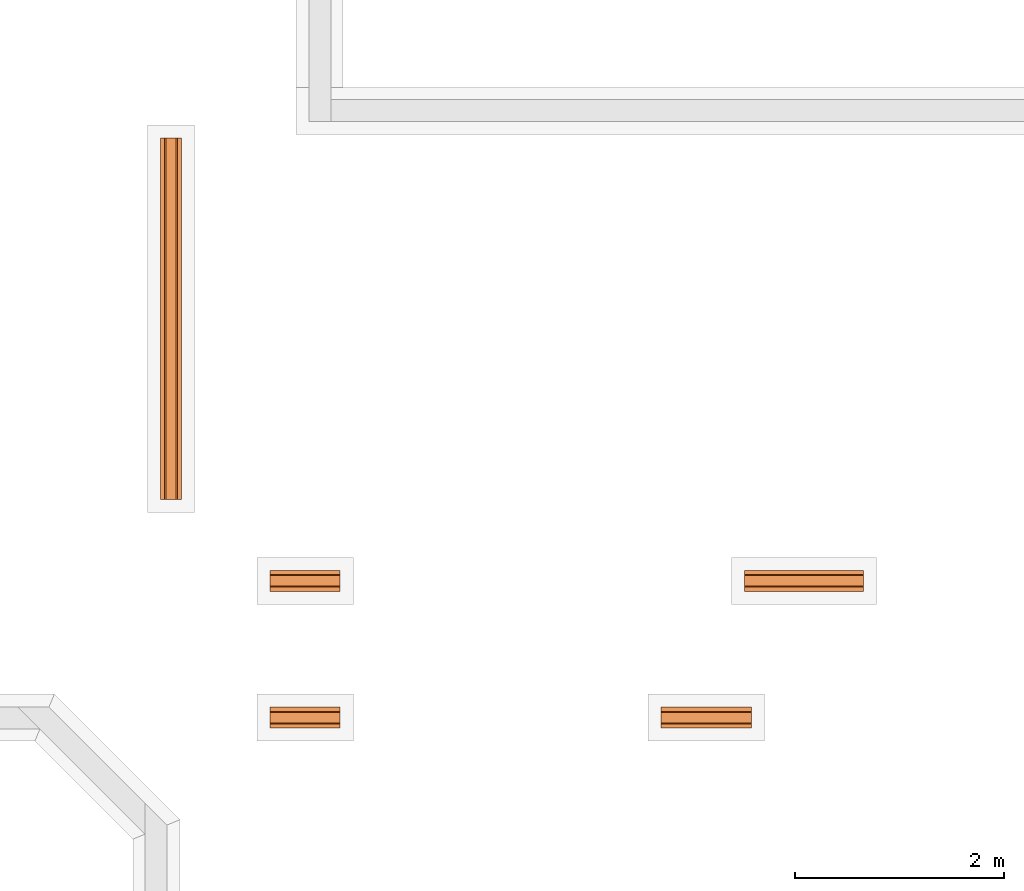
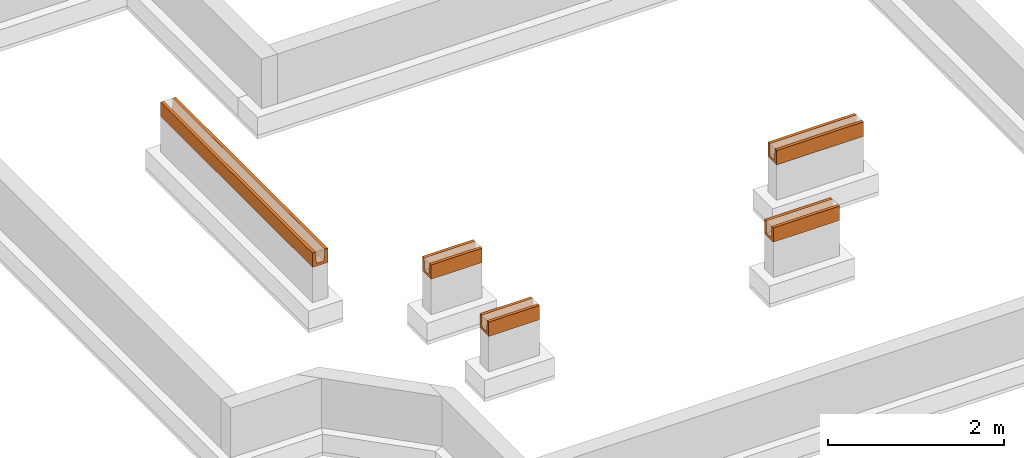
# One storey, part 2 of 2: 5 proxies.
"""IFC2X3 building model written with IfcOpenShell, lengths in centimetres."""

from ifc_helpers import new_model, entity, si_unit, converted_unit, derived_unit, direction, frame, origin, place, context, subcontext, project, spatial, polyline, outline, extrude, type_object, element, save


model = new_model("IFC2X3")

# Units and contexts
model_context = context("Model", 3, precision=0.001, world=origin(), true_north=direction((6.123031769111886e-17, 1.0)))
body_context = subcontext(model_context, "Body", "Model", "MODEL_VIEW")
ifc_project = project(units=[si_unit("LENGTHUNIT", "METRE", prefix="CENTI"), si_unit("AREAUNIT", "SQUARE_METRE"), si_unit("VOLUMEUNIT", "CUBIC_METRE"), converted_unit("PLANEANGLEUNIT", "DEGREE", entity("IfcRatioMeasure", 0.017453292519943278), si_unit("PLANEANGLEUNIT", "RADIAN"), dimensions=[0, 0, 0, 0, 0, 0, 0]), si_unit("MASSUNIT", "GRAM", prefix="KILO"), derived_unit("MASSDENSITYUNIT", [(si_unit("MASSUNIT", "GRAM", prefix="KILO"), 1), (si_unit("LENGTHUNIT", "METRE"), -3)]), derived_unit("MOMENTOFINERTIAUNIT", [(si_unit("LENGTHUNIT", "METRE"), 4)]), si_unit("TIMEUNIT", "SECOND"), si_unit("FREQUENCYUNIT", "HERTZ"), si_unit("THERMODYNAMICTEMPERATUREUNIT", "DEGREE_CELSIUS"), derived_unit("THERMALTRANSMITTANCEUNIT", [(si_unit("MASSUNIT", "GRAM", prefix="KILO"), 1), (si_unit("THERMODYNAMICTEMPERATUREUNIT", "KELVIN"), -1), (si_unit("TIMEUNIT", "SECOND"), -3)]), derived_unit("VOLUMETRICFLOWRATEUNIT", [(si_unit("LENGTHUNIT", "METRE"), 3), (si_unit("TIMEUNIT", "SECOND"), -1)]), derived_unit("MASSFLOWRATEUNIT", [(si_unit("MASSUNIT", "GRAM", prefix="KILO"), 1), (si_unit("TIMEUNIT", "SECOND"), -1)]), derived_unit("ROTATIONALFREQUENCYUNIT", [(si_unit("TIMEUNIT", "SECOND"), -1)]), si_unit("ELECTRICCURRENTUNIT", "AMPERE"), si_unit("ELECTRICVOLTAGEUNIT", "VOLT"), si_unit("POWERUNIT", "WATT"), si_unit("FORCEUNIT", "NEWTON", prefix="KILO"), si_unit("ILLUMINANCEUNIT", "LUX"), si_unit("LUMINOUSFLUXUNIT", "LUMEN"), si_unit("LUMINOUSINTENSITYUNIT", "CANDELA"), derived_unit("USERDEFINED", [(si_unit("MASSUNIT", "GRAM", prefix="KILO"), -1), (si_unit("LENGTHUNIT", "METRE"), -2), (si_unit("TIMEUNIT", "SECOND"), 3), (si_unit("LUMINOUSFLUXUNIT", "LUMEN"), 1)]), derived_unit("SOUNDPOWERUNIT", [(si_unit("MASSUNIT", "GRAM", prefix="KILO"), 1), (si_unit("LENGTHUNIT", "METRE"), 2), (si_unit("TIMEUNIT", "SECOND"), -3)]), derived_unit("SOUNDPRESSUREUNIT", [(si_unit("MASSUNIT", "GRAM", prefix="KILO"), 1), (si_unit("LENGTHUNIT", "METRE"), -1), (si_unit("TIMEUNIT", "SECOND"), -2)]), derived_unit("LINEARVELOCITYUNIT", [(si_unit("LENGTHUNIT", "METRE"), 1), (si_unit("TIMEUNIT", "SECOND"), -1)]), si_unit("PRESSUREUNIT", "PASCAL"), derived_unit("USERDEFINED", [(si_unit("LENGTHUNIT", "METRE"), -2), (si_unit("MASSUNIT", "GRAM", prefix="KILO"), 1), (si_unit("TIMEUNIT", "SECOND"), -2)]), derived_unit("LINEARFORCEUNIT", [(si_unit("MASSUNIT", "GRAM", prefix="KILO"), 1), (si_unit("LENGTHUNIT", "METRE"), 1), (si_unit("TIMEUNIT", "SECOND"), -2), (si_unit("LENGTHUNIT", "METRE"), -1)]), derived_unit("PLANARFORCEUNIT", [(si_unit("MASSUNIT", "GRAM", prefix="KILO"), 1), (si_unit("LENGTHUNIT", "METRE"), 1), (si_unit("TIMEUNIT", "SECOND"), -2), (si_unit("LENGTHUNIT", "METRE"), -2)])], contexts=[model_context])

# Site, building, storey
site_placement = place(None, frame((1412.1772603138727, -701.9923171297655, 0.0)))
site = spatial("IfcSite", under=ifc_project, at=site_placement, Name="Default", CompositionType="ELEMENT")
building_placement = place(site_placement, origin())
building = spatial("IfcBuilding", under=site, at=building_placement, CompositionType="ELEMENT")
storey_placement = place(building_placement, frame((0.0, 0.0, -98.0)))
storey = spatial("IfcBuildingStorey", under=building, at=storey_placement, Name="0_Fondation", CompositionType="ELEMENT", Elevation=-98.0)

# Proxies
building_element_proxy_type_1 = type_object("IfcBuildingElementProxyType", Name="306233", PredefinedType="NOTDEFINED")
proxy_1_placement = place(storey_placement, origin())
element("IfcBuildingElementProxy", 1, at=proxy_1_placement, inside=storey, type_object=building_element_proxy_type_1, Name="306233", context=body_context, shape_type="SweptSolid", body=[
    extrude(outline(polyline([(-11.0, -10.0), (9.0, -10.0), (9.0, -6.0), (-7.0, -5.0), (-7.0, 5.0), (9.0, 6.0), (9.0, 10.0), (-11.0, 10.0), (-11.0, -10.0)])), frame((-995.1772603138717, 261.99231712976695, 60.0), z_axis=(1.0, 0.0, 0.0), x_axis=(0.0, 0.0, 1.0)), (0.0, 0.0, 1.0), 114.0000000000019),
])
building_element_proxy_type_2 = type_object("IfcBuildingElementProxyType", Name="306311", PredefinedType="NOTDEFINED")
proxy_2_placement = place(storey_placement, origin())
element("IfcBuildingElementProxy", 2, at=proxy_2_placement, inside=storey, type_object=building_element_proxy_type_2, Name="306311", context=body_context, shape_type="SweptSolid", body=[
    extrude(outline(polyline([(-11.0, -10.0), (9.0, -10.0), (9.0, -6.0), (-7.0, -5.0), (-7.0, 5.0), (9.0, 6.0), (9.0, 10.0), (-11.0, 10.0), (-11.0, -10.0)])), frame((-1075.1772603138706, 130.99231712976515, 60.0), z_axis=(1.0, 0.0, 0.0), x_axis=(0.0, 0.0, 1.0)), (0.0, 0.0, 1.0), 86.99999999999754),
])
building_element_proxy_type_3 = type_object("IfcBuildingElementProxyType", Name="306359", PredefinedType="NOTDEFINED")
proxy_3_placement = place(storey_placement, origin())
element("IfcBuildingElementProxy", 3, at=proxy_3_placement, inside=storey, type_object=building_element_proxy_type_3, Name="306359", context=body_context, shape_type="SweptSolid", body=[
    extrude(outline(polyline([(-11.0, -10.0), (9.0, -10.0), (9.0, -6.0), (-7.0, -5.0), (-7.0, 5.0), (9.0, 6.0), (9.0, 10.0), (-11.0, 10.0), (-11.0, -10.0)])), frame((-1449.1772603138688, 130.99231712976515, 60.0), z_axis=(1.0, 0.0, 0.0), x_axis=(0.0, 0.0, 1.0)), (0.0, 0.0, 1.0), 66.99999999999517),
])
building_element_proxy_type_4 = type_object("IfcBuildingElementProxyType", Name="306388", PredefinedType="NOTDEFINED")
proxy_4_placement = place(storey_placement, origin())
element("IfcBuildingElementProxy", 4, at=proxy_4_placement, inside=storey, type_object=building_element_proxy_type_4, Name="306388", context=body_context, shape_type="SweptSolid", body=[
    extrude(outline(polyline([(-11.0, -10.0), (9.0, -10.0), (9.0, -6.0), (-7.0, -5.0), (-7.0, 5.0), (9.0, 6.0), (9.0, 10.0), (-11.0, 10.0), (-11.0, -10.0)])), frame((-1449.1772603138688, 261.9923171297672, 60.0), z_axis=(1.0, 0.0, 0.0), x_axis=(0.0, 0.0, 1.0)), (0.0, 0.0, 1.0), 66.99999999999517),
])
building_element_proxy_type_5 = type_object("IfcBuildingElementProxyType", Name="306447", PredefinedType="NOTDEFINED")
proxy_5_placement = place(storey_placement, origin())
element("IfcBuildingElementProxy", 5, at=proxy_5_placement, inside=storey, type_object=building_element_proxy_type_5, Name="306447", context=body_context, shape_type="SweptSolid", body=[
    extrude(outline(polyline([(-11.0, -10.0), (9.0, -10.0), (9.0, -6.0), (-7.0, -5.0), (-7.0, 5.0), (9.0, 6.0), (9.0, 10.0), (-11.0, 10.0), (-11.0, -10.0)])), frame((-1544.1772603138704, 339.99231712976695, 60.0), z_axis=(0.0, 1.0, 0.0), x_axis=(0.0, 0.0, 1.0)), (0.0, 0.0, 1.0), 345.99999999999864),
])

save(model, "model.ifc")
